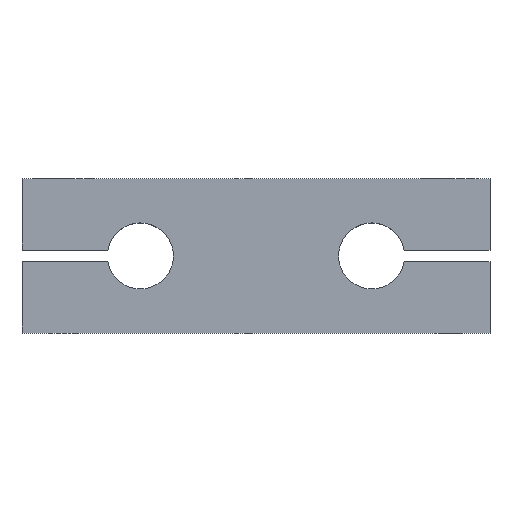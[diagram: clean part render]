
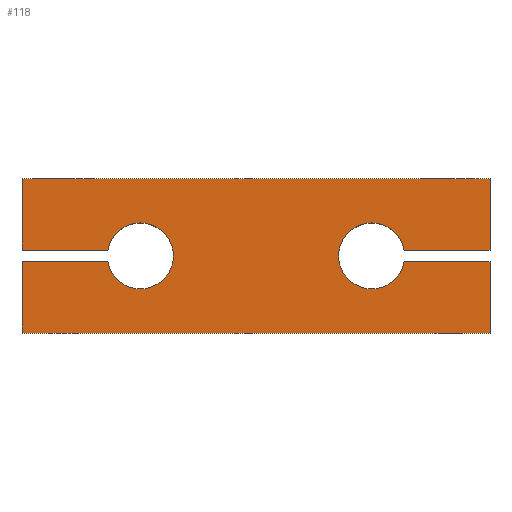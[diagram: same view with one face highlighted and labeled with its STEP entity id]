
A CAD part, top view. The second image highlights one B-rep face of the part: STEP entity #118.
In plain terms, the highlighted planar face has unit normal (0, 0, 1).
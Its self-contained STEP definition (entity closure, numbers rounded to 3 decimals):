
#39 = ORIENTED_EDGE ( 'NONE', *, *, #373, .T. ) ;
#46 = LINE ( 'NONE', #1278, #568 ) ;
#54 = VECTOR ( 'NONE', #626, 1000. ) ;
#57 = ORIENTED_EDGE ( 'NONE', *, *, #1068, .F. ) ;
#62 = DIRECTION ( 'NONE',  ( -1., 0., 0. ) ) ;
#84 = CARTESIAN_POINT ( 'NONE',  ( 21., 0., 7. ) ) ;
#98 = CARTESIAN_POINT ( 'NONE',  ( 42.5, -14., 7. ) ) ;
#118 = ADVANCED_FACE ( 'NONE', ( #1308 ), #269, .T. ) ;
#128 = DIRECTION ( 'NONE',  ( 0., 1., 0. ) ) ;
#135 = VERTEX_POINT ( 'NONE', #181 ) ;
#158 = DIRECTION ( 'NONE',  ( 1., 0., 0. ) ) ;
#181 = CARTESIAN_POINT ( 'NONE',  ( -26.903, 1.075, 7. ) ) ;
#192 = DIRECTION ( 'NONE',  ( 1., 0., 0. ) ) ;
#197 = CARTESIAN_POINT ( 'NONE',  ( 26.903, -1.075, 7. ) ) ;
#217 = LINE ( 'NONE', #1323, #1064 ) ;
#223 = DIRECTION ( 'NONE',  ( -1., 0., 0. ) ) ;
#227 = CARTESIAN_POINT ( 'NONE',  ( -42.5, -14., 7. ) ) ;
#230 = VERTEX_POINT ( 'NONE', #315 ) ;
#250 = VERTEX_POINT ( 'NONE', #98 ) ;
#255 = VECTOR ( 'NONE', #1326, 1000. ) ;
#262 = CARTESIAN_POINT ( 'NONE',  ( 0., 0., 7. ) ) ;
#265 = ORIENTED_EDGE ( 'NONE', *, *, #843, .F. ) ;
#269 = PLANE ( 'NONE',  #545 ) ;
#274 = CIRCLE ( 'NONE', #1031, 6. ) ;
#315 = CARTESIAN_POINT ( 'NONE',  ( -26.903, -1.075, 7. ) ) ;
#323 = ORIENTED_EDGE ( 'NONE', *, *, #656, .T. ) ;
#327 = VERTEX_POINT ( 'NONE', #1229 ) ;
#358 = VERTEX_POINT ( 'NONE', #197 ) ;
#373 = EDGE_CURVE ( 'NONE', #1288, #521, #600, .T. ) ;
#374 = EDGE_LOOP ( 'NONE', ( #784, #733, #265, #1163, #323, #571, #606, #57, #662, #1146, #1327, #696, #39 ) ) ;
#380 = AXIS2_PLACEMENT_3D ( 'NONE', #1316, #695, #1102 ) ;
#394 = LINE ( 'NONE', #1210, #609 ) ;
#431 = CARTESIAN_POINT ( 'NONE',  ( -15., 0., 7. ) ) ;
#432 = VERTEX_POINT ( 'NONE', #847 ) ;
#434 = DIRECTION ( 'NONE',  ( 1., 0., 0. ) ) ;
#443 = DIRECTION ( 'NONE',  ( -1., 0., 0. ) ) ;
#456 = DIRECTION ( 'NONE',  ( 0., 0., 1. ) ) ;
#491 = DIRECTION ( 'NONE',  ( 0., 0., 1. ) ) ;
#496 = DIRECTION ( 'NONE',  ( 1., 0., 0. ) ) ;
#511 = EDGE_CURVE ( 'NONE', #250, #885, #849, .T. ) ;
#516 = LINE ( 'NONE', #940, #941 ) ;
#521 = VERTEX_POINT ( 'NONE', #653 ) ;
#535 = LINE ( 'NONE', #731, #747 ) ;
#545 = AXIS2_PLACEMENT_3D ( 'NONE', #262, #456, #158 ) ;
#560 = DIRECTION ( 'NONE',  ( 1., 0., 0. ) ) ;
#568 = VECTOR ( 'NONE', #560, 1000. ) ;
#571 = ORIENTED_EDGE ( 'NONE', *, *, #950, .T. ) ;
#586 = CARTESIAN_POINT ( 'NONE',  ( -42.5, 1.075, 7. ) ) ;
#591 = DIRECTION ( 'NONE',  ( 0., 0., 1. ) ) ;
#600 = LINE ( 'NONE', #1126, #255 ) ;
#606 = ORIENTED_EDGE ( 'NONE', *, *, #511, .T. ) ;
#609 = VECTOR ( 'NONE', #1296, 1000. ) ;
#626 = DIRECTION ( 'NONE',  ( 0., 1., 0. ) ) ;
#635 = CARTESIAN_POINT ( 'NONE',  ( 42.5, 14., 7. ) ) ;
#653 = CARTESIAN_POINT ( 'NONE',  ( -42.5, 1.075, 7. ) ) ;
#656 = EDGE_CURVE ( 'NONE', #968, #327, #394, .T. ) ;
#662 = ORIENTED_EDGE ( 'NONE', *, *, #1087, .F. ) ;
#695 = DIRECTION ( 'NONE',  ( 0., 0., 1. ) ) ;
#696 = ORIENTED_EDGE ( 'NONE', *, *, #917, .T. ) ;
#700 = CARTESIAN_POINT ( 'NONE',  ( 26.903, 1.075, 7. ) ) ;
#716 = EDGE_CURVE ( 'NONE', #937, #135, #980, .T. ) ;
#720 = CARTESIAN_POINT ( 'NONE',  ( -42.5, 14., 7. ) ) ;
#727 = VERTEX_POINT ( 'NONE', #700 ) ;
#729 = EDGE_CURVE ( 'NONE', #135, #521, #1098, .T. ) ;
#730 = CARTESIAN_POINT ( 'NONE',  ( 42.5, 1.075, 7. ) ) ;
#731 = CARTESIAN_POINT ( 'NONE',  ( -42.5, 14., 7. ) ) ;
#733 = ORIENTED_EDGE ( 'NONE', *, *, #716, .F. ) ;
#747 = VECTOR ( 'NONE', #223, 1000. ) ;
#784 = ORIENTED_EDGE ( 'NONE', *, *, #729, .F. ) ;
#807 = EDGE_CURVE ( 'NONE', #968, #230, #217, .T. ) ;
#843 = EDGE_CURVE ( 'NONE', #230, #937, #1215, .T. ) ;
#847 = CARTESIAN_POINT ( 'NONE',  ( 42.5, 14., 7. ) ) ;
#849 = LINE ( 'NONE', #635, #1053 ) ;
#881 = EDGE_CURVE ( 'NONE', #1283, #432, #1160, .T. ) ;
#885 = VERTEX_POINT ( 'NONE', #1062 ) ;
#917 = EDGE_CURVE ( 'NONE', #432, #1288, #535, .T. ) ;
#930 = CARTESIAN_POINT ( 'NONE',  ( -21., 0., 7. ) ) ;
#935 = EDGE_CURVE ( 'NONE', #1283, #727, #516, .T. ) ;
#937 = VERTEX_POINT ( 'NONE', #431 ) ;
#940 = CARTESIAN_POINT ( 'NONE',  ( 20., 1.075, 7. ) ) ;
#941 = VECTOR ( 'NONE', #443, 1000. ) ;
#950 = EDGE_CURVE ( 'NONE', #327, #250, #1144, .T. ) ;
#968 = VERTEX_POINT ( 'NONE', #1048 ) ;
#980 = CIRCLE ( 'NONE', #380, 6. ) ;
#1031 = AXIS2_PLACEMENT_3D ( 'NONE', #84, #491, #192 ) ;
#1048 = CARTESIAN_POINT ( 'NONE',  ( -42.5, -1.075, 7. ) ) ;
#1053 = VECTOR ( 'NONE', #128, 1000. ) ;
#1057 = CARTESIAN_POINT ( 'NONE',  ( 42.5, 14., 7. ) ) ;
#1062 = CARTESIAN_POINT ( 'NONE',  ( 42.5, -1.075, 7. ) ) ;
#1064 = VECTOR ( 'NONE', #1104, 1000. ) ;
#1068 = EDGE_CURVE ( 'NONE', #358, #885, #46, .T. ) ;
#1087 = EDGE_CURVE ( 'NONE', #727, #358, #274, .T. ) ;
#1098 = LINE ( 'NONE', #586, #1106 ) ;
#1102 = DIRECTION ( 'NONE',  ( 1., 0., 0. ) ) ;
#1104 = DIRECTION ( 'NONE',  ( 1., 0., 0. ) ) ;
#1106 = VECTOR ( 'NONE', #62, 1000. ) ;
#1126 = CARTESIAN_POINT ( 'NONE',  ( -42.5, 14., 7. ) ) ;
#1144 = LINE ( 'NONE', #227, #1149 ) ;
#1146 = ORIENTED_EDGE ( 'NONE', *, *, #935, .F. ) ;
#1149 = VECTOR ( 'NONE', #434, 1000. ) ;
#1160 = LINE ( 'NONE', #1057, #54 ) ;
#1163 = ORIENTED_EDGE ( 'NONE', *, *, #807, .F. ) ;
#1210 = CARTESIAN_POINT ( 'NONE',  ( -42.5, 14., 7. ) ) ;
#1215 = CIRCLE ( 'NONE', #1307, 6. ) ;
#1229 = CARTESIAN_POINT ( 'NONE',  ( -42.5, -14., 7. ) ) ;
#1278 = CARTESIAN_POINT ( 'NONE',  ( 20., -1.075, 7. ) ) ;
#1283 = VERTEX_POINT ( 'NONE', #730 ) ;
#1288 = VERTEX_POINT ( 'NONE', #720 ) ;
#1296 = DIRECTION ( 'NONE',  ( 0., -1., 0. ) ) ;
#1307 = AXIS2_PLACEMENT_3D ( 'NONE', #930, #591, #496 ) ;
#1308 = FACE_OUTER_BOUND ( 'NONE', #374, .T. ) ;
#1316 = CARTESIAN_POINT ( 'NONE',  ( -21., 0., 7. ) ) ;
#1323 = CARTESIAN_POINT ( 'NONE',  ( -42.5, -1.075, 7. ) ) ;
#1326 = DIRECTION ( 'NONE',  ( 0., -1., 0. ) ) ;
#1327 = ORIENTED_EDGE ( 'NONE', *, *, #881, .T. ) ;
